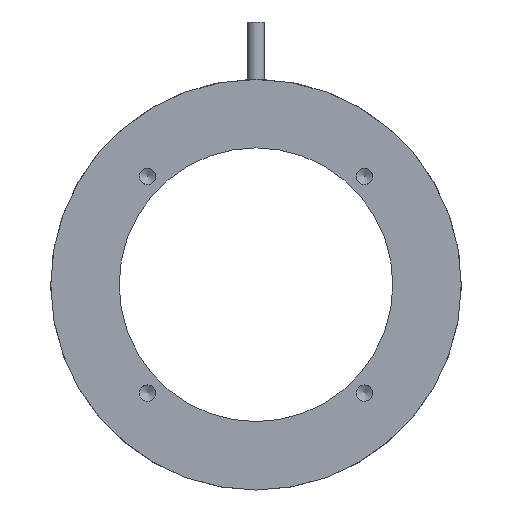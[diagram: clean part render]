
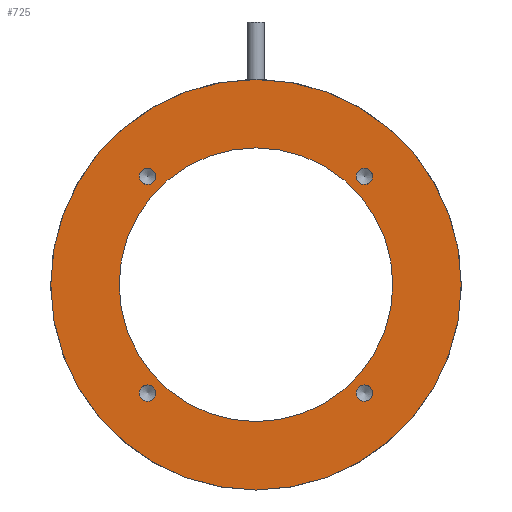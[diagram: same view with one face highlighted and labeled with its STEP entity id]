
A CAD part, front view. The second image highlights one B-rep face of the part: STEP entity #725.
In plain terms, the highlighted planar face has unit normal (0, -1, 0).
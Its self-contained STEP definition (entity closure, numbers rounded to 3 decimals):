
#37=FACE_BOUND('',#125,.T.);
#38=FACE_BOUND('',#126,.T.);
#39=FACE_BOUND('',#127,.T.);
#40=FACE_BOUND('',#128,.T.);
#41=FACE_BOUND('',#129,.T.);
#52=PLANE('',#822);
#81=FACE_OUTER_BOUND('',#124,.T.);
#124=EDGE_LOOP('',(#553));
#125=EDGE_LOOP('',(#554,#555));
#126=EDGE_LOOP('',(#556,#557));
#127=EDGE_LOOP('',(#558,#559));
#128=EDGE_LOOP('',(#560,#561));
#129=EDGE_LOOP('',(#562));
#224=CIRCLE('',#792,1.5);
#225=CIRCLE('',#793,1.5);
#228=CIRCLE('',#798,1.5);
#229=CIRCLE('',#799,1.5);
#232=CIRCLE('',#804,1.5);
#233=CIRCLE('',#805,1.5);
#236=CIRCLE('',#810,1.5);
#237=CIRCLE('',#811,1.5);
#244=CIRCLE('',#823,37.5);
#245=CIRCLE('',#824,25.);
#287=VERTEX_POINT('',#1147);
#288=VERTEX_POINT('',#1148);
#292=VERTEX_POINT('',#1160);
#293=VERTEX_POINT('',#1161);
#297=VERTEX_POINT('',#1173);
#298=VERTEX_POINT('',#1174);
#302=VERTEX_POINT('',#1186);
#303=VERTEX_POINT('',#1187);
#331=VERTEX_POINT('',#1345);
#332=VERTEX_POINT('',#1347);
#365=EDGE_CURVE('',#287,#288,#224,.T.);
#366=EDGE_CURVE('',#288,#287,#225,.T.);
#371=EDGE_CURVE('',#292,#293,#228,.T.);
#372=EDGE_CURVE('',#293,#292,#229,.T.);
#377=EDGE_CURVE('',#297,#298,#232,.T.);
#378=EDGE_CURVE('',#298,#297,#233,.T.);
#383=EDGE_CURVE('',#302,#303,#236,.T.);
#384=EDGE_CURVE('',#303,#302,#237,.T.);
#415=EDGE_CURVE('',#331,#331,#244,.T.);
#416=EDGE_CURVE('',#332,#332,#245,.T.);
#553=ORIENTED_EDGE('',*,*,#415,.T.);
#554=ORIENTED_EDGE('',*,*,#365,.T.);
#555=ORIENTED_EDGE('',*,*,#366,.T.);
#556=ORIENTED_EDGE('',*,*,#371,.T.);
#557=ORIENTED_EDGE('',*,*,#372,.T.);
#558=ORIENTED_EDGE('',*,*,#377,.T.);
#559=ORIENTED_EDGE('',*,*,#378,.T.);
#560=ORIENTED_EDGE('',*,*,#383,.T.);
#561=ORIENTED_EDGE('',*,*,#384,.T.);
#562=ORIENTED_EDGE('',*,*,#416,.F.);
#725=ADVANCED_FACE('',(#81,#37,#38,#39,#40,#41),#52,.F.);
#792=AXIS2_PLACEMENT_3D('',#1149,#925,#926);
#793=AXIS2_PLACEMENT_3D('',#1150,#927,#928);
#798=AXIS2_PLACEMENT_3D('',#1162,#939,#940);
#799=AXIS2_PLACEMENT_3D('',#1163,#941,#942);
#804=AXIS2_PLACEMENT_3D('',#1175,#953,#954);
#805=AXIS2_PLACEMENT_3D('',#1176,#955,#956);
#810=AXIS2_PLACEMENT_3D('',#1188,#967,#968);
#811=AXIS2_PLACEMENT_3D('',#1189,#969,#970);
#822=AXIS2_PLACEMENT_3D('',#1344,#1002,#1003);
#823=AXIS2_PLACEMENT_3D('',#1346,#1004,#1005);
#824=AXIS2_PLACEMENT_3D('',#1348,#1006,#1007);
#925=DIRECTION('center_axis',(0.,1.,0.));
#926=DIRECTION('ref_axis',(1.,0.,0.));
#927=DIRECTION('center_axis',(0.,1.,0.));
#928=DIRECTION('ref_axis',(1.,0.,0.));
#939=DIRECTION('center_axis',(0.,1.,0.));
#940=DIRECTION('ref_axis',(1.,0.,0.));
#941=DIRECTION('center_axis',(0.,1.,0.));
#942=DIRECTION('ref_axis',(1.,0.,0.));
#953=DIRECTION('center_axis',(0.,1.,0.));
#954=DIRECTION('ref_axis',(1.,0.,0.));
#955=DIRECTION('center_axis',(0.,1.,0.));
#956=DIRECTION('ref_axis',(1.,0.,0.));
#967=DIRECTION('center_axis',(0.,1.,0.));
#968=DIRECTION('ref_axis',(1.,0.,0.));
#969=DIRECTION('center_axis',(0.,1.,0.));
#970=DIRECTION('ref_axis',(1.,0.,0.));
#1002=DIRECTION('center_axis',(0.,1.,0.));
#1003=DIRECTION('ref_axis',(0.,0.,1.));
#1004=DIRECTION('center_axis',(0.,-1.,0.));
#1005=DIRECTION('ref_axis',(0.,0.,-1.));
#1006=DIRECTION('center_axis',(0.,-1.,0.));
#1007=DIRECTION('ref_axis',(0.,0.,-1.));
#1147=CARTESIAN_POINT('',(-18.299,0.,-19.799));
#1148=CARTESIAN_POINT('',(-21.299,0.,-19.799));
#1149=CARTESIAN_POINT('Origin',(-19.799,0.,-19.799));
#1150=CARTESIAN_POINT('Origin',(-19.799,0.,-19.799));
#1160=CARTESIAN_POINT('',(-18.299,0.,19.799));
#1161=CARTESIAN_POINT('',(-21.299,0.,19.799));
#1162=CARTESIAN_POINT('Origin',(-19.799,0.,19.799));
#1163=CARTESIAN_POINT('Origin',(-19.799,0.,19.799));
#1173=CARTESIAN_POINT('',(21.299,0.,-19.799));
#1174=CARTESIAN_POINT('',(18.299,0.,-19.799));
#1175=CARTESIAN_POINT('Origin',(19.799,0.,-19.799));
#1176=CARTESIAN_POINT('Origin',(19.799,0.,-19.799));
#1186=CARTESIAN_POINT('',(21.299,0.,19.799));
#1187=CARTESIAN_POINT('',(18.299,0.,19.799));
#1188=CARTESIAN_POINT('Origin',(19.799,0.,19.799));
#1189=CARTESIAN_POINT('Origin',(19.799,0.,19.799));
#1344=CARTESIAN_POINT('Origin',(0.,0.,0.));
#1345=CARTESIAN_POINT('',(0.,0.,37.5));
#1346=CARTESIAN_POINT('Origin',(0.,0.,0.));
#1347=CARTESIAN_POINT('',(0.,0.,25.));
#1348=CARTESIAN_POINT('Origin',(0.,0.,0.));
